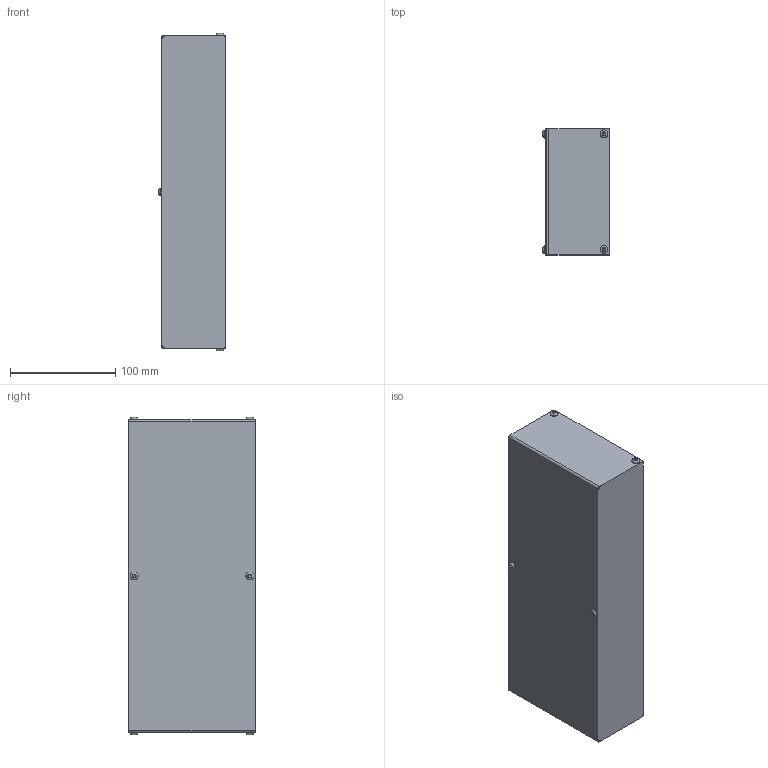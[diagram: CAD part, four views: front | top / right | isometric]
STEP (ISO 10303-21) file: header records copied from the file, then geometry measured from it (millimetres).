
FILE_DESCRIPTION(/* description */ (''),/* implementation_level */ '2;1');
FILE_NAME(/* name */ 'X:\VIRI ZA WEB\CAD DATOTEKE\LINEARNE ENOTE UNIMOTION\DODATNA OPREMA ZA LINEARNE ENOTE\STRANSKI POGONI\CTV-MTV\CTV 145-MTV 80\MSD CTV 145 T2 2 80 X 80\izvoz\MSD CTV 145 T2 2 80 X 80.stp',/* time_stamp */ '2016-06-06T13:45:56+02:00',/* author */ ('Hypex'),/* organization */ ('Hypex'),/* preprocessor_version */ 'ST-DEVELOPER v16.1',/* originating_system */ 'Autodesk Inventor 2016',/* authorisation */ '');
FILE_SCHEMA (('AUTOMOTIVE_DESIGN { 1 0 10303 214 3 1 1 }'));
Length unit declared in the file: millimetre
Products named in the file (1): MSD CTV 145 T2 2 80 X 80
Bounding box: 63.2 x 120 x 301.4 mm (x, y, z)
Volume: 2128601.9 mm3; surface area: 129667.6 mm2
Topology: 1 solids, 13 shells, 186 faces, 448 edges, 295 vertices
Faces by surface type: plane 109, cylinder 45, cone 20, bspline 6, torus 6
Full cylindrical faces by diameter (mm): 3.242 x4, 4 x6, 5 x6, 6.2 x4, 7.6 x6, 30 x1
Entity records: 5183 total; most frequent: CARTESIAN_POINT 1053, DIRECTION 806, ORIENTED_EDGE 728, EDGE_CURVE 364, AXIS2_PLACEMENT_3D 303, VERTEX_POINT 262, EDGE_LOOP 260, LINE 200
